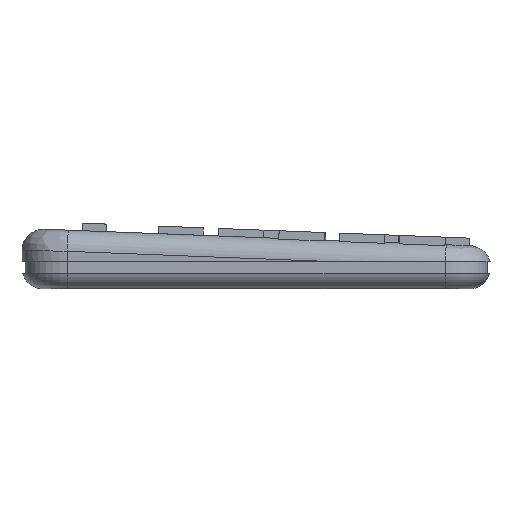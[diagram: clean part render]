
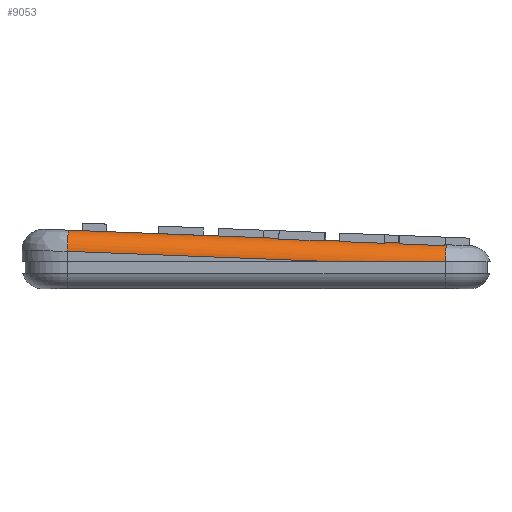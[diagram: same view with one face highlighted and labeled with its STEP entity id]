
A CAD part, left-side view. The second image highlights one B-rep face of the part: STEP entity #9053.
In plain terms, the highlighted cylindrical face has radius 7 mm (diameter 14 mm), a partial arc.
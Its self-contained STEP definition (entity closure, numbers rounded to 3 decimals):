
#123=ELLIPSE('',#9593,180.969,7.);
#647=FACE_OUTER_BOUND('',#1178,.T.);
#1178=EDGE_LOOP('',(#6512,#6513,#6514,#6515,#6516,#6517,#6518,#6519,#6520,
#6521,#6522,#6523,#6524,#6525,#6526,#6527,#6528));
#1807=CIRCLE('',#9603,7.);
#1808=CIRCLE('',#9604,7.);
#1809=CIRCLE('',#9605,7.);
#1810=CIRCLE('',#9606,7.);
#1811=CIRCLE('',#9607,7.);
#1812=CIRCLE('',#9608,7.);
#1813=CIRCLE('',#9609,7.);
#1814=CIRCLE('',#9610,7.);
#1861=LINE('',#12674,#3093);
#1863=LINE('',#12680,#3095);
#1864=LINE('',#12684,#3096);
#1865=LINE('',#12688,#3097);
#1866=LINE('',#12692,#3098);
#1867=LINE('',#12696,#3099);
#1868=LINE('',#12700,#3100);
#1869=LINE('',#12704,#3101);
#3093=VECTOR('',#10233,88.264);
#3095=VECTOR('',#10239,0.376);
#3096=VECTOR('',#10242,15.);
#3097=VECTOR('',#10245,5.);
#3098=VECTOR('',#10248,15.);
#3099=VECTOR('',#10251,5.);
#3100=VECTOR('',#10254,15.);
#3101=VECTOR('',#10257,69.718);
#4321=VERTEX_POINT('',#12621);
#4322=VERTEX_POINT('',#12644);
#4335=VERTEX_POINT('',#12673);
#4336=VERTEX_POINT('',#12677);
#4337=VERTEX_POINT('',#12679);
#4338=VERTEX_POINT('',#12681);
#4339=VERTEX_POINT('',#12683);
#4340=VERTEX_POINT('',#12685);
#4341=VERTEX_POINT('',#12687);
#4342=VERTEX_POINT('',#12689);
#4343=VERTEX_POINT('',#12691);
#4344=VERTEX_POINT('',#12693);
#4345=VERTEX_POINT('',#12695);
#4346=VERTEX_POINT('',#12697);
#4347=VERTEX_POINT('',#12699);
#4348=VERTEX_POINT('',#12701);
#4349=VERTEX_POINT('',#12703);
#5185=EDGE_CURVE('',#4322,#4321,#123,.T.);
#5199=EDGE_CURVE('',#4335,#4322,#1861,.T.);
#5201=EDGE_CURVE('',#4336,#4321,#1807,.T.);
#5202=EDGE_CURVE('',#4336,#4337,#1863,.T.);
#5203=EDGE_CURVE('',#4338,#4337,#1808,.T.);
#5204=EDGE_CURVE('',#4338,#4339,#1864,.F.);
#5205=EDGE_CURVE('',#4340,#4339,#1809,.T.);
#5206=EDGE_CURVE('',#4340,#4341,#1865,.T.);
#5207=EDGE_CURVE('',#4342,#4341,#1810,.T.);
#5208=EDGE_CURVE('',#4342,#4343,#1866,.F.);
#5209=EDGE_CURVE('',#4344,#4343,#1811,.T.);
#5210=EDGE_CURVE('',#4344,#4345,#1867,.T.);
#5211=EDGE_CURVE('',#4346,#4345,#1812,.T.);
#5212=EDGE_CURVE('',#4346,#4347,#1868,.F.);
#5213=EDGE_CURVE('',#4348,#4347,#1813,.T.);
#5214=EDGE_CURVE('',#4348,#4349,#1869,.T.);
#5215=EDGE_CURVE('',#4349,#4335,#1814,.T.);
#6512=ORIENTED_EDGE('',*,*,#5185,.T.);
#6513=ORIENTED_EDGE('',*,*,#5201,.F.);
#6514=ORIENTED_EDGE('',*,*,#5202,.T.);
#6515=ORIENTED_EDGE('',*,*,#5203,.F.);
#6516=ORIENTED_EDGE('',*,*,#5204,.T.);
#6517=ORIENTED_EDGE('',*,*,#5205,.F.);
#6518=ORIENTED_EDGE('',*,*,#5206,.T.);
#6519=ORIENTED_EDGE('',*,*,#5207,.F.);
#6520=ORIENTED_EDGE('',*,*,#5208,.T.);
#6521=ORIENTED_EDGE('',*,*,#5209,.F.);
#6522=ORIENTED_EDGE('',*,*,#5210,.T.);
#6523=ORIENTED_EDGE('',*,*,#5211,.F.);
#6524=ORIENTED_EDGE('',*,*,#5212,.T.);
#6525=ORIENTED_EDGE('',*,*,#5213,.F.);
#6526=ORIENTED_EDGE('',*,*,#5214,.T.);
#6527=ORIENTED_EDGE('',*,*,#5215,.T.);
#6528=ORIENTED_EDGE('',*,*,#5199,.T.);
#9019=CYLINDRICAL_SURFACE('',#9602,7.);
#9053=ADVANCED_FACE('',(#647),#9019,.T.);
#9593=AXIS2_PLACEMENT_3D('',#12645,#10208,#10209);
#9602=AXIS2_PLACEMENT_3D('',#12676,#10235,#10236);
#9603=AXIS2_PLACEMENT_3D('',#12678,#10237,#10238);
#9604=AXIS2_PLACEMENT_3D('',#12682,#10240,#10241);
#9605=AXIS2_PLACEMENT_3D('',#12686,#10243,#10244);
#9606=AXIS2_PLACEMENT_3D('',#12690,#10246,#10247);
#9607=AXIS2_PLACEMENT_3D('',#12694,#10249,#10250);
#9608=AXIS2_PLACEMENT_3D('',#12698,#10252,#10253);
#9609=AXIS2_PLACEMENT_3D('',#12702,#10255,#10256);
#9610=AXIS2_PLACEMENT_3D('',#12705,#10258,#10259);
#10208=DIRECTION('center_axis',(0.,0.,1.));
#10209=DIRECTION('ref_axis',(0.,-1.,0.));
#10233=DIRECTION('',(0.,-0.999,-0.039));
#10235=DIRECTION('center_axis',(0.,0.999,0.039));
#10236=DIRECTION('ref_axis',(-0.707,-0.027,0.707));
#10237=DIRECTION('center_axis',(0.,-0.999,-0.039));
#10238=DIRECTION('ref_axis',(0.,-0.039,0.999));
#10239=DIRECTION('',(0.,0.999,0.039));
#10240=DIRECTION('center_axis',(0.,0.999,0.039));
#10241=DIRECTION('ref_axis',(-0.707,-0.027,0.707));
#10242=DIRECTION('',(0.,-0.999,-0.039));
#10243=DIRECTION('center_axis',(0.,-0.999,-0.039));
#10244=DIRECTION('ref_axis',(-0.707,-0.027,0.707));
#10245=DIRECTION('',(0.,0.999,0.039));
#10246=DIRECTION('center_axis',(0.,0.999,0.039));
#10247=DIRECTION('ref_axis',(-0.707,-0.027,0.707));
#10248=DIRECTION('',(0.,-0.999,-0.039));
#10249=DIRECTION('center_axis',(0.,-0.999,-0.039));
#10250=DIRECTION('ref_axis',(-0.707,-0.027,0.707));
#10251=DIRECTION('',(0.,0.999,0.039));
#10252=DIRECTION('center_axis',(0.,0.999,0.039));
#10253=DIRECTION('ref_axis',(-0.707,-0.027,0.707));
#10254=DIRECTION('',(0.,-0.999,-0.039));
#10255=DIRECTION('center_axis',(0.,-0.999,-0.039));
#10256=DIRECTION('ref_axis',(-0.707,-0.027,0.707));
#10257=DIRECTION('',(0.,0.999,0.039));
#10258=DIRECTION('center_axis',(0.,-0.999,
-0.039));
#10259=DIRECTION('ref_axis',(0.,-0.039,0.999));
#12621=CARTESIAN_POINT('',(-189.853,-62.555,9.));
#12644=CARTESIAN_POINT('',(-190.,-25.698,9.));
#12645=CARTESIAN_POINT('Origin',(-183.,-25.698,9.));
#12673=CARTESIAN_POINT('',(-190.,62.5,12.414));
#12674=CARTESIAN_POINT('',(-190.,-7.605,9.7));
#12676=CARTESIAN_POINT('Origin',(-183.,-7.605,9.7));
#12677=CARTESIAN_POINT('',(-183.,-62.771,14.57));
#12678=CARTESIAN_POINT('Origin',(-183.,-62.5,7.575));
#12679=CARTESIAN_POINT('',(-183.,-62.395,14.585));
#12680=CARTESIAN_POINT('',(-183.,-7.875,16.695));
#12681=CARTESIAN_POINT('',(-185.,-62.384,14.293));
#12682=CARTESIAN_POINT('Origin',(-183.,-62.124,7.59));
#12683=CARTESIAN_POINT('',(-185.,-47.395,14.873));
#12684=CARTESIAN_POINT('',(-185.,-7.864,16.404));
#12685=CARTESIAN_POINT('',(-183.,-47.406,15.165));
#12686=CARTESIAN_POINT('Origin',(-183.,-47.136,8.17));
#12687=CARTESIAN_POINT('',(-183.,-42.41,15.358));
#12688=CARTESIAN_POINT('',(-183.,-7.875,16.695));
#12689=CARTESIAN_POINT('',(-185.,-42.399,15.067));
#12690=CARTESIAN_POINT('Origin',(-183.,-42.139,8.364));
#12691=CARTESIAN_POINT('',(-185.,-27.41,15.647));
#12692=CARTESIAN_POINT('',(-185.,-7.864,16.404));
#12693=CARTESIAN_POINT('',(-183.,-27.421,15.939));
#12694=CARTESIAN_POINT('Origin',(-183.,-27.151,8.944));
#12695=CARTESIAN_POINT('',(-183.,-22.425,16.132));
#12696=CARTESIAN_POINT('',(-183.,-7.875,16.695));
#12697=CARTESIAN_POINT('',(-185.,-22.414,15.84));
#12698=CARTESIAN_POINT('Origin',(-183.,-22.154,9.137));
#12699=CARTESIAN_POINT('',(-185.,-7.425,16.421));
#12700=CARTESIAN_POINT('',(-185.,-7.864,16.404));
#12701=CARTESIAN_POINT('',(-183.,-7.436,16.712));
#12702=CARTESIAN_POINT('Origin',(-183.,-7.166,9.717));
#12703=CARTESIAN_POINT('',(-183.,62.229,19.409));
#12704=CARTESIAN_POINT('',(-183.,-7.875,16.695));
#12705=CARTESIAN_POINT('Origin',(-183.,62.5,12.414));
